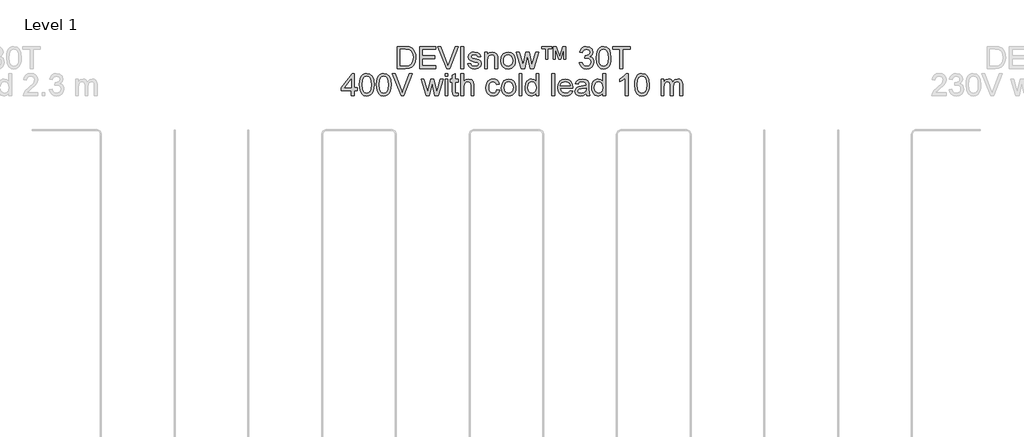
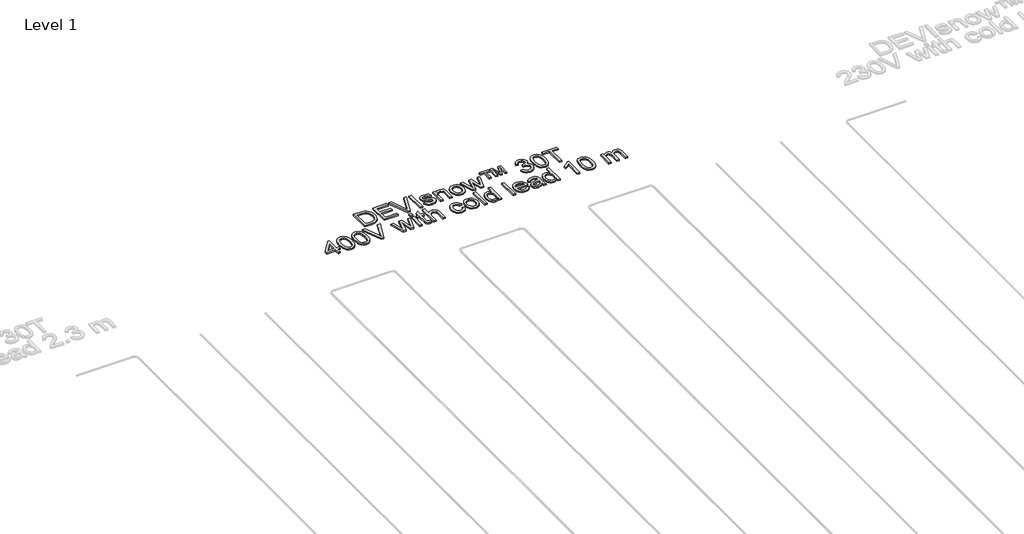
# One storey, part 20 of 26: 1 proxy.
"""IFC4 building model written with IfcOpenShell, lengths in millimetres."""

from ifc_helpers import new_model, si_unit, origin, origin_with_axes, place, context, project, spatial, polyline, outline, extrude, element, save

model = new_model("IFC4")

# Units and contexts
model_context = context("Model", 3, world=origin())
ifc_project = project(units=[si_unit("LENGTHUNIT", "METRE", prefix="MILLI")], contexts=[model_context])

# Site, building, storey
site = spatial("IfcSite", under=ifc_project)
building = spatial("IfcBuilding", under=site)
storey = spatial("IfcBuildingStorey", under=building, Name="Level 1", Elevation=0.0)

# Proxy
placement = place(None, origin())
element("IfcBuildingElementProxy", 1, Name="150mm", ObjectType="150mm", at=placement, inside=storey, context=model_context, shape_type="SweptSolid", body=[
    extrude(outline(polyline([(17423.8396742, -17520.7202), (17423.8396742, -17370.0357347), (17475.8214001, -17370.0357347), (17502.7135739, -17372.2062385), (17524.86007, -17382.985181), (17535.2803276, -17394.4630992), (17542.7023468, -17408.7369206), (17547.1445219, -17425.5307337), (17548.6252469, -17444.568627), (17544.6153332, -17474.9740739), (17534.3146373, -17496.9182349), (17520.5558507, -17510.585051), (17502.548027, -17518.145026), (17478.3229977, -17520.7202), (17423.8396742, -17520.7202)]), holes=[polyline([(17442.6752323, -17501.8846418), (17476.0053411, -17501.8846418), (17500.2487646, -17499.162315), (17514.2282804, -17491.4735813), (17525.6878045, -17472.7667819), (17529.7896888, -17444.2743214), (17527.7801334, -17423.746506), (17521.7514672, -17408.5897678), (17512.8441244, -17398.1787074), (17502.1985391, -17391.8879252), (17475.4903063, -17388.8712929), (17442.6752323, -17388.8712929), (17442.6752323, -17501.8846418)])]), origin_with_axes(), (0.0, 0.0, 1.0), 10.0),
    extrude(outline(polyline([(17574.5241394, -17520.7202), (17574.5241394, -17370.0357347), (17682.8285988, -17370.0357347), (17682.8285988, -17388.8712929), (17593.3596975, -17388.8712929), (17593.3596975, -17433.6057435), (17678.1197092, -17433.6057435), (17678.1197092, -17452.4413017), (17593.3596975, -17452.4413017), (17593.3596975, -17501.8846418), (17685.1830435, -17501.8846418), (17685.1830435, -17520.7202), (17574.5241394, -17520.7202)])), origin_with_axes(), (0.0, 0.0, 1.0), 10.0),
    extrude(outline(polyline([(17757.9501022, -17520.7202), (17697.985337, -17370.0357347), (17718.1452703, -17370.0357347), (17758.281196, -17478.5977115), (17766.4113881, -17503.0618642), (17774.4312156, -17478.5977115), (17814.6775058, -17370.0357347), (17834.8374392, -17370.0357347), (17777.4110597, -17520.7202), (17757.9501022, -17520.7202)])), origin_with_axes(), (0.0, 0.0, 1.0), 10.0),
    extrude(outline(polyline([(17854.7030669, -17520.7202), (17854.7030669, -17370.0357347), (17873.5386251, -17370.0357347), (17873.5386251, -17520.7202), (17854.7030669, -17520.7202)])), origin_with_axes(), (0.0, 0.0, 1.0), 10.0),
    extrude(outline(polyline([(17901.7919623, -17487.7579732), (17920.6275205, -17485.4035284), (17923.5981676, -17493.4601441), (17929.3463237, -17499.3830442), (17949.3223161, -17504.2390866), (17968.5257562, -17499.7877144), (17974.7797501, -17489.3398658), (17973.2070546, -17484.5390057), (17968.488968, -17480.8785799), (17949.1015869, -17475.5075028), (17920.7378851, -17466.2920588), (17908.3586559, -17455.5315104), (17904.1464071, -17440.337984), (17907.5309214, -17426.3032859), (17916.7647595, -17415.5795257), (17928.7393184, -17410.0061135), (17944.9445203, -17407.706851), (17967.8635686, -17411.4040651), (17982.4316956, -17421.4104554), (17988.9064188, -17438.314633), (17970.0708606, -17440.6690778), (17962.9891322, -17430.2764114), (17946.4160483, -17426.5424092), (17928.3898306, -17430.1108645), (17922.9819652, -17438.4249976), (17925.2260454, -17443.9064394), (17932.2525915, -17448.0635059), (17948.4761875, -17452.0734197), (17976.1225194, -17460.9393757), (17988.9616011, -17470.9825542), (17993.6153083, -17487.353303), (17988.1522607, -17505.3795208), (17972.3885172, -17518.4577257), (17949.0647987, -17523.0746447), (17930.0728907, -17520.8489587), (17916.2129365, -17514.1719004), (17906.9607043, -17503.1170465), (17901.7919623, -17487.7579732)])), origin_with_axes(), (0.0, 0.0, 1.0), 10.0),
    extrude(outline(polyline([(18014.8053112, -17520.7202), (18014.8053112, -17410.0612958), (18033.6408694, -17410.0612958), (18033.6408694, -17425.5123396), (18048.0434495, -17412.1582232), (18067.7067421, -17407.706851), (18085.4938366, -17411.2937005), (18097.6339424, -17420.7114796), (18103.2809311, -17434.5622367), (18104.2742124, -17452.7723954), (18104.2742124, -17520.7202), (18085.4386543, -17520.7202), (18085.4386543, -17455.3107812), (18083.2681505, -17438.6457268), (18075.5978109, -17429.834953), (18062.6667588, -17426.5424092), (18051.6348975, -17428.3910162), (18042.230914, -17433.9368373), (18035.7883805, -17444.6514004), (18033.6408694, -17462.0062335), (18033.6408694, -17520.7202), (18014.8053112, -17520.7202)])), origin_with_axes(), (0.0, 0.0, 1.0), 10.0),
    extrude(outline(polyline([(18125.4642154, -17465.3907479), (18129.5385085, -17438.7101062), (18141.7613878, -17419.9573215), (18156.8629437, -17410.7694686), (18174.9443437, -17407.706851), (18194.7317965, -17411.4362548), (18210.5369268, -17422.6244659), (18220.8974034, -17440.3885678), (18224.3508957, -17463.8456435), (18222.8241854, -17482.8743397), (18218.2440546, -17497.3596933), (18210.7438604, -17508.2076136), (18200.4569601, -17516.3240101), (18188.2386793, -17521.3869861), (18174.9443437, -17523.0746447), (18154.9177676, -17519.3590366), (18139.1310315, -17508.2122121), (18128.8809194, -17490.0756298), (18125.4642154, -17465.3907479)]), holes=[polyline([(18144.2997735, -17465.3539597), (18146.4794743, -17482.4006916), (18153.0185768, -17494.545396), (18162.8594202, -17501.8156639), (18174.9443437, -17504.2390866), (18186.974085, -17501.8018684), (18196.7965342, -17494.4902137), (18203.3356367, -17482.184561), (18205.5153375, -17464.7653485), (18203.3218411, -17448.2152572), (18196.7413519, -17436.2360998), (18186.9051071, -17428.9658318), (18174.9443437, -17426.5424092), (18162.8594202, -17428.9566348), (18153.0185768, -17436.1993116), (18146.4794743, -17448.3164248), (18144.2997735, -17465.3539597)])]), origin_with_axes(), (0.0, 0.0, 1.0), 10.0),
    extrude(outline(polyline([(18263.8982102, -17520.7202), (18230.2370076, -17410.0612958), (18249.8083297, -17410.0612958), (18268.9014053, -17474.624586), (18274.6035762, -17497.6907871), (18279.2756776, -17475.4707146), (18294.469204, -17410.0612958), (18316.9100057, -17410.0612958), (18332.0299557, -17475.2867736), (18336.1870222, -17495.4099187), (18342.1467105, -17474.1831276), (18361.2765743, -17410.0612958), (18380.9214728, -17410.0612958), (18347.0027529, -17520.7202), (18324.2308574, -17520.7202), (18309.773095, -17455.825816), (18305.5792402, -17435.5923063), (18286.9276231, -17520.7202), (18263.8982102, -17520.7202)])), origin_with_axes(), (0.0, 0.0, 1.0), 10.0),
    extrude(outline(polyline([(18429.1875906, -17454.7957464), (18429.1875906, -17384.1624033), (18400.9342534, -17384.1624033), (18400.9342534, -17370.0357347), (18471.5675964, -17370.0357347), (18471.5675964, -17384.1624033), (18443.3142592, -17384.1624033), (18443.3142592, -17454.7957464), (18429.1875906, -17454.7957464)])), origin_with_axes(), (0.0, 0.0, 1.0), 10.0),
    extrude(outline(polyline([(18480.9853755, -17454.7957464), (18480.9853755, -17370.0357347), (18501.8810728, -17370.0357347), (18523.4389578, -17438.0939038), (18544.7393253, -17370.0357347), (18565.7453872, -17370.0357347), (18565.7453872, -17454.7957464), (18551.6187186, -17454.7957464), (18551.6187186, -17385.1924729), (18530.4287157, -17454.7957464), (18516.302047, -17454.7957464), (18495.1120441, -17384.1624033), (18495.1120441, -17454.7957464), (18480.9853755, -17454.7957464)])), origin_with_axes(), (0.0, 0.0, 1.0), 10.0),
    extrude(outline(polyline([(18657.5687332, -17480.6946389), (18676.4042913, -17478.3401941), (18680.6211387, -17490.1767973), (18686.7969577, -17498.1690337), (18695.235251, -17502.7215733), (18706.2395212, -17504.2390866), (18719.1521792, -17502.1513563), (18729.1217813, -17495.8881653), (18735.4953368, -17486.5439626), (18737.6198553, -17475.2131972), (18735.5137309, -17464.4572473), (18729.1953577, -17455.7338455), (18719.6304258, -17449.9534997), (18707.7846255, -17448.0267177), (18694.5776619, -17450.0868569), (18696.6745893, -17431.2512987), (18699.6912216, -17431.4720279), (18721.0651656, -17426.0641626), (18728.1836822, -17419.2031634), (18730.556521, -17409.4358964), (18728.8366727, -17401.3011058), (18723.6771277, -17394.7022225), (18715.804453, -17390.3290253), (18705.9452156, -17388.8712929), (18696.067584, -17390.3428209), (18687.9925742, -17394.7574048), (18682.0972652, -17402.1150447), (18678.7587361, -17412.4157406), (18659.923178, -17410.0612958), (18665.468999, -17393.1479211), (18675.3374336, -17380.5203716), (18688.8387028, -17372.6568939), (18705.283028, -17370.0357347), (18727.9997412, -17375.2044768), (18743.8922434, -17389.3311454), (18749.3920792, -17408.3322504), (18744.1681549, -17425.6962806), (18728.7171111, -17438.1674802), (18740.507729, -17442.9315521), (18749.2449264, -17451.0433501), (18754.6527917, -17462.0614158), (18756.4554135, -17475.544291), (18752.8501699, -17493.9016025), (18742.0344393, -17509.2422817), (18725.7096757, -17519.616554), (18705.5773336, -17523.0746447), (18687.3671748, -17520.1223917), (18672.5415304, -17511.2656327), (18662.2316375, -17497.7183782), (18657.5687332, -17480.6946389)])), origin_with_axes(), (0.0, 0.0, 1.0), 10.0),
    extrude(outline(polyline([(18772.9365269, -17446.5919779), (18774.3206829, -17422.4727146), (18778.4731509, -17403.2370848), (18785.3525442, -17388.5907829), (18794.9174761, -17378.2395032), (18807.2369244, -17372.0866769), (18822.379867, -17370.0357347), (18844.3792103, -17374.8917771), (18859.5727367, -17388.889687), (18868.4019046, -17411.1833359), (18871.8232072, -17446.5919779), (18870.4528468, -17470.5732855), (18866.3417655, -17489.7629301), (18859.5037589, -17504.4230276), (18849.9526226, -17514.8156939), (18837.6055831, -17521.009907), (18822.379867, -17523.0746447), (18802.8085449, -17519.4877953), (18787.9461123, -17508.7272469), (18776.6889232, -17483.2422217), (18772.9365269, -17446.5919779)]), holes=[polyline([(18791.772085, -17446.5551897), (18793.979377, -17476.1834859), (18800.6012529, -17493.3313854), (18810.4604904, -17501.5121613), (18822.379867, -17504.2390866), (18834.2992437, -17501.5029642), (18844.1584811, -17493.2945972), (18850.7803571, -17476.1375007), (18852.987649, -17446.5551897), (18850.8539335, -17417.5936797), (18844.4527867, -17400.3124229), (18834.6119434, -17391.7315754), (18822.1591378, -17388.8712929), (18810.3685199, -17391.3912846), (18800.8955585, -17398.9512596), (18794.0529534, -17417.3085711), (18791.772085, -17446.5551897)])]), origin_with_axes(), (0.0, 0.0, 1.0), 10.0),
    extrude(outline(polyline([(18933.0387712, -17520.7202), (18933.0387712, -17388.8712929), (18883.595431, -17388.8712929), (18883.595431, -17370.0357347), (19001.3176695, -17370.0357347), (19001.3176695, -17388.8712929), (18951.8743293, -17388.8712929), (18951.8743293, -17520.7202), (18933.0387712, -17520.7202)])), origin_with_axes(), (0.0, 0.0, 1.0), 10.0),
    extrude(outline(polyline([(17111.8757423, -17703.6824267), (17111.8757423, -17668.3657552), (17043.596844, -17668.3657552), (17043.596844, -17649.530197), (17116.5846318, -17555.3524063), (17130.7113004, -17555.3524063), (17130.7113004, -17649.530197), (17149.5468586, -17649.530197), (17149.5468586, -17668.3657552), (17130.7113004, -17668.3657552), (17130.7113004, -17703.6824267), (17111.8757423, -17703.6824267)]), holes=[polyline([(17111.8757423, -17649.530197), (17111.8757423, -17591.3312654), (17066.7734096, -17649.530197), (17111.8757423, -17649.530197)])]), origin_with_axes(), (0.0, 0.0, 1.0), 10.0),
    extrude(outline(polyline([(17166.0279719, -17629.5542047), (17167.412128, -17605.4349414), (17171.564596, -17586.1993116), (17178.4439893, -17571.5530096), (17188.0089212, -17561.20173), (17200.3283695, -17555.0489036), (17215.4713121, -17552.9979615), (17237.4706554, -17557.8540038), (17252.6641818, -17571.8519138), (17261.4933497, -17594.1455627), (17264.9146523, -17629.5542047), (17263.5442918, -17653.5355123), (17259.4332105, -17672.7251568), (17252.5952039, -17687.3852543), (17243.0440676, -17697.7779207), (17230.6970282, -17703.9721338), (17215.4713121, -17706.0368715), (17195.89999, -17702.450022), (17181.0375574, -17691.6894737), (17169.7803683, -17666.2044485), (17166.0279719, -17629.5542047)]), holes=[polyline([(17184.8635301, -17629.5174165), (17187.0708221, -17659.1457127), (17193.692698, -17676.2936122), (17203.5519355, -17684.4743881), (17215.4713121, -17687.2013133), (17227.3906887, -17684.465191), (17237.2499262, -17676.256824), (17243.8718021, -17659.0997274), (17246.0790941, -17629.5174165), (17243.9453785, -17600.5559064), (17237.5442318, -17583.2746497), (17227.7033884, -17574.6938022), (17215.2505829, -17571.8335197), (17203.459965, -17574.3535113), (17193.9870036, -17581.9134863), (17187.1443985, -17600.2707979), (17184.8635301, -17629.5174165)])]), origin_with_axes(), (0.0, 0.0, 1.0), 10.0),
    extrude(outline(polyline([(17281.3957656, -17629.5542047), (17282.7799216, -17605.4349414), (17286.9323897, -17586.1993116), (17293.811783, -17571.5530096), (17303.3767148, -17561.20173), (17315.6961632, -17555.0489036), (17330.8391058, -17552.9979615), (17352.8384491, -17557.8540038), (17368.0319755, -17571.8519138), (17376.8611434, -17594.1455627), (17380.2824459, -17629.5542047), (17378.9120855, -17653.5355123), (17374.8010042, -17672.7251568), (17367.9629976, -17687.3852543), (17358.4118613, -17697.7779207), (17346.0648219, -17703.9721338), (17330.8391058, -17706.0368715), (17311.2677836, -17702.450022), (17296.405351, -17691.6894737), (17285.148162, -17666.2044485), (17281.3957656, -17629.5542047)]), holes=[polyline([(17300.2313238, -17629.5174165), (17302.4386158, -17659.1457127), (17309.0604917, -17676.2936122), (17318.9197291, -17684.4743881), (17330.8391058, -17687.2013133), (17342.7584824, -17684.465191), (17352.6177199, -17676.256824), (17359.2395958, -17659.0997274), (17361.4468878, -17629.5174165), (17359.3131722, -17600.5559064), (17352.9120255, -17583.2746497), (17343.0711821, -17574.6938022), (17330.6183766, -17571.8335197), (17318.8277586, -17574.3535113), (17309.3547973, -17581.9134863), (17302.5121922, -17600.2707979), (17300.2313238, -17629.5174165)])]), origin_with_axes(), (0.0, 0.0, 1.0), 10.0),
    extrude(outline(polyline([(17448.340615, -17703.6824267), (17388.3758498, -17552.9979615), (17408.5357832, -17552.9979615), (17448.6717088, -17661.5599383), (17456.8019009, -17686.024091), (17464.8217284, -17661.5599383), (17505.0680187, -17552.9979615), (17525.227952, -17552.9979615), (17467.8015726, -17703.6824267), (17448.340615, -17703.6824267)])), origin_with_axes(), (0.0, 0.0, 1.0), 10.0),
    extrude(outline(polyline([(17617.603121, -17703.6824267), (17583.9419185, -17593.0235226), (17603.5132406, -17593.0235226), (17622.6063162, -17657.5868127), (17628.3084871, -17680.6530138), (17632.9805884, -17658.4329413), (17648.1741148, -17593.0235226), (17670.6149165, -17593.0235226), (17685.7348665, -17658.2490003), (17689.8919331, -17678.3721455), (17695.8516214, -17657.1453543), (17714.9814852, -17593.0235226), (17734.6263837, -17593.0235226), (17700.7076637, -17703.6824267), (17677.9357682, -17703.6824267), (17663.4780058, -17638.7880428), (17659.2841511, -17618.554533), (17640.6325339, -17703.6824267), (17617.603121, -17703.6824267)])), origin_with_axes(), (0.0, 0.0, 1.0), 10.0),
    extrude(outline(polyline([(17747.5758299, -17571.8335197), (17747.5758299, -17552.9979615), (17766.4113881, -17552.9979615), (17766.4113881, -17571.8335197), (17747.5758299, -17571.8335197)])), origin_with_axes(), (0.0, 0.0, 1.0), 10.0),
    extrude(outline(polyline([(17747.5758299, -17703.6824267), (17747.5758299, -17593.0235226), (17766.4113881, -17593.0235226), (17766.4113881, -17703.6824267), (17747.5758299, -17703.6824267)])), origin_with_axes(), (0.0, 0.0, 1.0), 10.0),
    extrude(outline(polyline([(17834.6902864, -17687.9738655), (17837.0447312, -17704.2342497), (17822.9548507, -17706.0368715), (17807.1727131, -17702.9098745), (17799.3000384, -17694.706106), (17797.0191701, -17673.3321621), (17797.0191701, -17611.8590807), (17782.8925015, -17611.8590807), (17782.8925015, -17593.0235226), (17797.0191701, -17593.0235226), (17797.0191701, -17566.1313487), (17815.8547282, -17555.0581007), (17815.8547282, -17593.0235226), (17834.6902864, -17593.0235226), (17834.6902864, -17611.8590807), (17815.8547282, -17611.8590807), (17815.8547282, -17672.7803391), (17816.8480096, -17682.4924238), (17820.0669771, -17685.9321205), (17826.4865179, -17687.2013133), (17834.6902864, -17687.9738655)])), origin_with_axes(), (0.0, 0.0, 1.0), 10.0),
    extrude(outline(polyline([(17853.5258445, -17703.6824267), (17853.5258445, -17552.9979615), (17872.3614027, -17552.9979615), (17872.3614027, -17608.40099), (17887.0490913, -17595.1020558), (17905.1396885, -17590.6690778), (17926.2929032, -17595.506726), (17939.1319848, -17608.8792366), (17942.9947458, -17633.6376948), (17942.9947458, -17703.6824267), (17924.1591876, -17703.6824267), (17924.1591876, -17635.5874694), (17922.6600685, -17623.7968515), (17918.1627111, -17615.7218417), (17910.9154358, -17611.0589374), (17901.1665629, -17609.504636), (17885.7339132, -17613.6984907), (17875.4332173, -17625.0660444), (17872.3614027, -17644.8948839), (17872.3614027, -17703.6824267), (17853.5258445, -17703.6824267)])), origin_with_axes(), (0.0, 0.0, 1.0), 10.0),
    extrude(outline(polyline([(18098.3881005, -17663.6568657), (18117.2236587, -17666.0113104), (18111.9721432, -17682.7637368), (18102.1037087, -17695.4234759), (18088.5472572, -17703.3835226), (18072.2316907, -17706.0368715), (18052.1959175, -17702.3350589), (18036.528743, -17691.2296212), (18026.4165867, -17673.208002), (18023.0458679, -17648.7576448), (18024.4852062, -17631.9960214), (18028.8032211, -17617.4692812), (18036.0688905, -17605.738444), (18046.3511923, -17597.3645301), (18058.6522465, -17592.3429409), (18071.9741733, -17590.6690778), (18087.8896681, -17592.9683403), (18100.6137866, -17599.8661277), (18109.7418586, -17610.994558), (18114.8692139, -17625.9857493), (18096.0336558, -17628.3401941), (18087.2964584, -17614.2319196), (18072.1213261, -17609.504636), (18059.9490306, -17611.8314896), (18050.2875297, -17618.8120504), (18043.982952, -17630.8233976), (18041.8814261, -17648.2426101), (18043.9369667, -17665.8963473), (18050.1035887, -17677.9490812), (18059.5903456, -17684.8882553), (18071.6062913, -17687.2013133), (18081.3597627, -17685.7573765), (18089.3565975, -17681.425566), (18095.1737316, -17674.0955173), (18098.3881005, -17663.6568657)])), origin_with_axes(), (0.0, 0.0, 1.0), 10.0),
    extrude(outline(polyline([(18128.9958825, -17648.3529747), (18133.0701756, -17621.672333), (18145.2930549, -17602.9195482), (18160.3946108, -17593.7316954), (18178.4760109, -17590.6690778), (18198.2634637, -17594.3984815), (18214.0685939, -17605.5866927), (18224.4290706, -17623.3507946), (18227.8825628, -17646.8078703), (18226.3558525, -17665.8365665), (18221.7757217, -17680.32192), (18214.2755275, -17691.1698404), (18203.9886272, -17699.2862369), (18191.7703465, -17704.3492128), (18178.4760109, -17706.0368715), (18158.4494348, -17702.3212633), (18142.6626986, -17691.1744389), (18132.4125866, -17673.0378565), (18128.9958825, -17648.3529747)]), holes=[polyline([(18147.8314407, -17648.3161865), (18150.0111415, -17665.3629184), (18156.550244, -17677.5076228), (18166.3910873, -17684.7778907), (18178.4760109, -17687.2013133), (18190.5057521, -17684.7640951), (18200.3282014, -17677.4524405), (18206.8673039, -17665.1467877), (18209.0470047, -17647.7275753), (18206.8535083, -17631.177484), (18200.2730191, -17619.1983265), (18190.4367742, -17611.9280586), (18178.4760109, -17609.504636), (18166.3910873, -17611.9188616), (18156.550244, -17619.1615383), (18150.0111415, -17631.2786516), (18147.8314407, -17648.3161865)])]), origin_with_axes(), (0.0, 0.0, 1.0), 10.0),
    extrude(outline(polyline([(18249.0725657, -17703.6824267), (18249.0725657, -17552.9979615), (18267.9081239, -17552.9979615), (18267.9081239, -17703.6824267), (18249.0725657, -17703.6824267)])), origin_with_axes(), (0.0, 0.0, 1.0), 10.0),
    extrude(outline(polyline([(18364.4403594, -17703.6824267), (18364.4403594, -17685.9137264), (18351.9783568, -17701.0060852), (18334.7522824, -17706.0368715), (18322.5753884, -17704.2158556), (18311.4285639, -17698.752808), (18301.9923908, -17690.0294062), (18294.9474505, -17678.4273278), (18290.5604578, -17664.4156223), (18289.0981268, -17648.4633392), (18294.4875981, -17618.4809566), (18301.2198386, -17606.5891711), (18310.6376176, -17597.8427767), (18322.0281639, -17592.4625025), (18334.678706, -17590.6690778), (18352.0427362, -17595.8010316), (18364.4403594, -17609.136754), (18364.4403594, -17552.9979615), (18383.2759176, -17552.9979615), (18383.2759176, -17703.6824267), (18364.4403594, -17703.6824267)]), holes=[polyline([(18307.933685, -17648.3897629), (18310.0582035, -17665.4272978), (18316.4317591, -17677.544411), (18325.6931883, -17684.7870877), (18336.4813278, -17687.2013133), (18347.2648688, -17684.8974523), (18356.2917732, -17677.9858694), (18362.4032129, -17666.3378057), (18364.4403594, -17649.8245026), (18362.3664247, -17631.7706937), (18356.1446204, -17619.2535088), (18346.8877897, -17611.9418542), (18335.7087756, -17609.504636), (18324.8102715, -17611.8452852), (18315.8799361, -17618.8672327), (18309.9202478, -17630.9291637), (18307.933685, -17648.3897629)])]), origin_with_axes(), (0.0, 0.0, 1.0), 10.0),
    extrude(outline(polyline([(18470.390374, -17703.6824267), (18470.390374, -17552.9979615), (18489.2259322, -17552.9979615), (18489.2259322, -17703.6824267), (18470.390374, -17703.6824267)])), origin_with_axes(), (0.0, 0.0, 1.0), 10.0),
    extrude(outline(polyline([(18594.9552176, -17670.7202), (18613.4228938, -17673.0746447), (18606.7688282, -17686.9897812), (18596.1508341, -17697.3916446), (18581.8080348, -17703.8755648), (18563.9795536, -17706.0368715), (18541.8790428, -17702.3074678), (18524.8736975, -17691.1192566), (18514.0303757, -17673.1988049), (18510.4159351, -17649.2726796), (18514.0671639, -17624.5418125), (18525.0208503, -17606.0465452), (18541.7962693, -17594.5134447), (18562.9126958, -17590.6690778), (18583.3715333, -17594.5042476), (18599.7192895, -17606.009757), (18610.4384511, -17624.4682361), (18614.011505, -17649.162315), (18613.9011404, -17654.2390866), (18529.2514933, -17654.2390866), (18532.5118475, -17668.338164), (18540.085618, -17678.7032393), (18551.0163118, -17685.0767948), (18564.3474356, -17687.2013133), (18582.8151118, -17683.264976), (18594.9552176, -17670.7202)]), holes=[polyline([(18529.2514933, -17635.4035284), (18595.1759468, -17635.4035284), (18592.628364, -17625.4523205), (18587.6343659, -17618.3338038), (18576.6530884, -17611.7119279), (18562.8391194, -17609.504636), (18550.1425921, -17611.265871), (18539.6441596, -17616.5495762), (18532.3463006, -17624.7855343), (18529.2514933, -17635.4035284)])]), origin_with_axes(), (0.0, 0.0, 1.0), 10.0),
    extrude(outline(polyline([(18703.4804062, -17689.5557581), (18685.2150651, -17702.3212633), (18665.0367377, -17706.0368715), (18649.2959868, -17703.8019884), (18637.6847114, -17697.097339), (18630.524808, -17686.9162048), (18628.1381736, -17674.2518671), (18631.7434171, -17659.3526463), (18641.2163785, -17648.5369156), (18654.404948, -17642.3564981), (18670.7021204, -17639.5238068), (18703.3700416, -17633.0490837), (18703.4804062, -17628.8552289), (18702.1836222, -17620.4491253), (18698.2932701, -17614.9492895), (18689.5928609, -17610.8657993), (18677.4711491, -17609.504636), (18658.4148618, -17613.1282736), (18649.3281765, -17625.9857493), (18630.4926183, -17623.6313046), (18638.6412045, -17605.2372048), (18655.0487415, -17594.4582624), (18679.8991703, -17590.6690778), (18702.7262481, -17594.016804), (18715.620512, -17602.4229076), (18721.3962594, -17615.2068069), (18722.3159643, -17631.6879203), (18722.3159643, -17655.1220034), (18723.2724575, -17687.8451068), (18727.0248539, -17703.6824267), (18708.1892957, -17703.6824267), (18703.4804062, -17689.5557581)]), holes=[polyline([(18703.4804062, -17651.8846418), (18673.0933534, -17657.6603891), (18656.8881515, -17660.7138097), (18649.5489057, -17665.6802166), (18646.9737317, -17672.9274919), (18652.5839322, -17683.1178232), (18669.0466514, -17687.2013133), (18688.1029388, -17682.6947589), (18700.3901974, -17671.7870577), (18703.3700416, -17657.2189307), (18703.4804062, -17651.8846418)])]), origin_with_axes(), (0.0, 0.0, 1.0), 10.0),
    extrude(outline(polyline([(18816.4937551, -17703.6824267), (18816.4937551, -17685.9137264), (18804.0317525, -17701.0060852), (18786.8056781, -17706.0368715), (18774.6287841, -17704.2158556), (18763.4819596, -17698.752808), (18754.0457864, -17690.0294062), (18747.0008462, -17678.4273278), (18742.6138534, -17664.4156223), (18741.1515225, -17648.4633392), (18746.5409937, -17618.4809566), (18753.2732342, -17606.5891711), (18762.6910133, -17597.8427767), (18774.0815596, -17592.4625025), (18786.7321017, -17590.6690778), (18804.0961319, -17595.8010316), (18816.4937551, -17609.136754), (18816.4937551, -17552.9979615), (18835.3293133, -17552.9979615), (18835.3293133, -17703.6824267), (18816.4937551, -17703.6824267)]), holes=[polyline([(18759.9870807, -17648.3897629), (18762.1115992, -17665.4272978), (18768.4851547, -17677.544411), (18777.746584, -17684.7870877), (18788.5347235, -17687.2013133), (18799.3182645, -17684.8974523), (18808.3451689, -17677.9858694), (18814.4566086, -17666.3378057), (18816.4937551, -17649.8245026), (18814.4198204, -17631.7706937), (18808.1980161, -17619.2535088), (18798.9411854, -17611.9418542), (18787.7621713, -17609.504636), (18776.8636672, -17611.8452852), (18767.9333317, -17618.8672327), (18761.9736434, -17630.9291637), (18759.9870807, -17648.3897629)])]), origin_with_axes(), (0.0, 0.0, 1.0), 10.0),
    extrude(outline(polyline([(18988.3682233, -17703.6824267), (18969.5326651, -17703.6824267), (18969.5326651, -17586.2544939), (18951.6903883, -17598.9648168), (18931.8615488, -17608.4745664), (18931.8615488, -17590.6690778), (18959.4710925, -17573.0475302), (18976.2281174, -17552.9979615), (18988.3682233, -17552.9979615), (18988.3682233, -17703.6824267)])), origin_with_axes(), (0.0, 0.0, 1.0), 10.0),
    extrude(outline(polyline([(19033.1026739, -17629.5542047), (19034.4868299, -17605.4349414), (19038.6392979, -17586.1993116), (19045.5186912, -17571.5530096), (19055.0836231, -17561.20173), (19067.4030714, -17555.0489036), (19082.546014, -17552.9979615), (19104.5453573, -17557.8540038), (19119.7388837, -17571.8519138), (19128.5680516, -17594.1455627), (19131.9893542, -17629.5542047), (19130.6189937, -17653.5355123), (19126.5079124, -17672.7251568), (19119.6699059, -17687.3852543), (19110.1187696, -17697.7779207), (19097.7717301, -17703.9721338), (19082.546014, -17706.0368715), (19062.9746919, -17702.450022), (19048.1122593, -17691.6894737), (19036.8550702, -17666.2044485), (19033.1026739, -17629.5542047)]), holes=[polyline([(19051.938232, -17629.5174165), (19054.145524, -17659.1457127), (19060.7673999, -17676.2936122), (19070.6266374, -17684.4743881), (19082.546014, -17687.2013133), (19094.4653907, -17684.465191), (19104.3246281, -17676.256824), (19110.946504, -17659.0997274), (19113.153796, -17629.5174165), (19111.0200804, -17600.5559064), (19104.6189337, -17583.2746497), (19094.7780904, -17574.6938022), (19082.3252848, -17571.8335197), (19070.5346669, -17574.3535113), (19061.0617055, -17581.9134863), (19054.2191004, -17600.2707979), (19051.938232, -17629.5174165)])]), origin_with_axes(), (0.0, 0.0, 1.0), 10.0),
    extrude(outline(polyline([(19212.0404763, -17703.6824267), (19212.0404763, -17593.0235226), (19230.8760345, -17593.0235226), (19230.8760345, -17611.2336813), (19243.8254807, -17596.3160664), (19262.2563687, -17590.6690778), (19272.7318085, -17592.1084161), (19281.128715, -17596.426431), (19291.5029873, -17612.5580565), (19306.199873, -17596.1413225), (19324.7595196, -17590.6690778), (19338.9183779, -17592.9453477), (19349.3892192, -17599.7741572), (19355.8593438, -17611.3394474), (19358.016052, -17627.8251593), (19358.016052, -17703.6824267), (19339.1804939, -17703.6824267), (19339.1804939, -17635.9185632), (19337.4330544, -17620.1916079), (19331.1054841, -17612.4476919), (19320.3449357, -17609.504636), (19310.1408089, -17611.3900312), (19301.8220772, -17617.0462169), (19296.2900517, -17626.8594691), (19294.4460432, -17641.2160639), (19294.4460432, -17703.6824267), (19275.6104851, -17703.6824267), (19275.6104851, -17633.8216358), (19271.2510834, -17615.5746889), (19265.4983287, -17611.0221492), (19256.9588679, -17609.504636), (19243.0161403, -17613.5513379), (19233.745514, -17625.3971382), (19230.8760345, -17647.8747281), (19230.8760345, -17703.6824267), (19212.0404763, -17703.6824267)])), origin_with_axes(), (0.0, 0.0, 1.0), 10.0),
])

save(model, "model.ifc")
